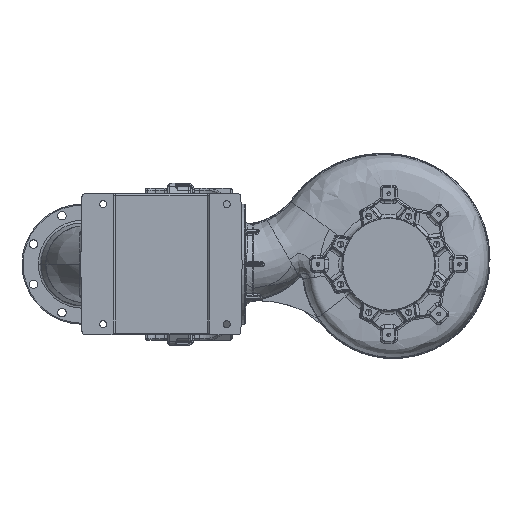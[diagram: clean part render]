
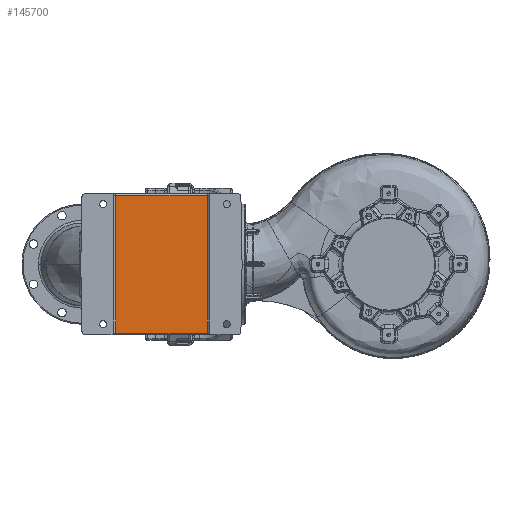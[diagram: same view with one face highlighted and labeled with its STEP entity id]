
A CAD part, front view. The second image highlights one B-rep face of the part: STEP entity #145700.
In plain terms, the highlighted planar face has unit normal (0, -1, 0).
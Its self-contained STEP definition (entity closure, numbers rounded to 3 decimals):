
#3434 = EDGE_LOOP ( 'NONE', ( #208303, #117855, #138558, #176747 ) ) ;
#3735 = FACE_OUTER_BOUND ( 'NONE', #3434, .T. ) ;
#5509 = CARTESIAN_POINT ( 'NONE',  ( -779., -753.702, -230. ) ) ;
#5896 = CARTESIAN_POINT ( 'NONE',  ( -514., -753.702, 195. ) ) ;
#7905 = CARTESIAN_POINT ( 'NONE',  ( -779., -753.702, 195. ) ) ;
#20988 = VERTEX_POINT ( 'NONE', #208873 ) ;
#22723 = CARTESIAN_POINT ( 'NONE',  ( -514., -753.702, 200. ) ) ;
#26081 = DIRECTION ( 'NONE',  ( 0., 0., 1. ) ) ;
#46302 = LINE ( 'NONE', #242057, #155571 ) ;
#46342 = CARTESIAN_POINT ( 'NONE',  ( -514., -753.702, -195. ) ) ;
#48261 = DIRECTION ( 'NONE',  ( -1., 0., 0. ) ) ;
#52790 = EDGE_CURVE ( 'NONE', #77615, #58640, #133358, .T. ) ;
#58640 = VERTEX_POINT ( 'NONE', #46342 ) ;
#68678 = LINE ( 'NONE', #22723, #226330 ) ;
#77377 = CARTESIAN_POINT ( 'NONE',  ( -774., -753.702, -195. ) ) ;
#77615 = VERTEX_POINT ( 'NONE', #77377 ) ;
#78930 = CARTESIAN_POINT ( 'NONE',  ( -509., -753.702, -195. ) ) ;
#108208 = EDGE_CURVE ( 'NONE', #174133, #20988, #157570, .T. ) ;
#117855 = ORIENTED_EDGE ( 'NONE', *, *, #160997, .T. ) ;
#133297 = AXIS2_PLACEMENT_3D ( 'NONE', #5509, #149110, #26081 ) ;
#133358 = LINE ( 'NONE', #78930, #242852 ) ;
#138558 = ORIENTED_EDGE ( 'NONE', *, *, #108208, .T. ) ;
#145700 = ADVANCED_FACE ( 'NONE', ( #3735 ), #168936, .F. ) ;
#149110 = DIRECTION ( 'NONE',  ( 0., 1., 0. ) ) ;
#155571 = VECTOR ( 'NONE', #161084, 1000. ) ;
#157570 = LINE ( 'NONE', #7905, #205833 ) ;
#160997 = EDGE_CURVE ( 'NONE', #58640, #174133, #68678, .T. ) ;
#161084 = DIRECTION ( 'NONE',  ( 0., 0., -1. ) ) ;
#161776 = EDGE_CURVE ( 'NONE', #20988, #77615, #46302, .T. ) ;
#166460 = DIRECTION ( 'NONE',  ( 0., 0., 1. ) ) ;
#168936 = PLANE ( 'NONE',  #133297 ) ;
#174133 = VERTEX_POINT ( 'NONE', #5896 ) ;
#176747 = ORIENTED_EDGE ( 'NONE', *, *, #161776, .T. ) ;
#205833 = VECTOR ( 'NONE', #48261, 1000. ) ;
#208303 = ORIENTED_EDGE ( 'NONE', *, *, #52790, .T. ) ;
#208873 = CARTESIAN_POINT ( 'NONE',  ( -774., -753.702, 195. ) ) ;
#222768 = DIRECTION ( 'NONE',  ( 1., 0., 0. ) ) ;
#226330 = VECTOR ( 'NONE', #166460, 1000. ) ;
#242057 = CARTESIAN_POINT ( 'NONE',  ( -774., -753.702, -200. ) ) ;
#242852 = VECTOR ( 'NONE', #222768, 1000. ) ;
